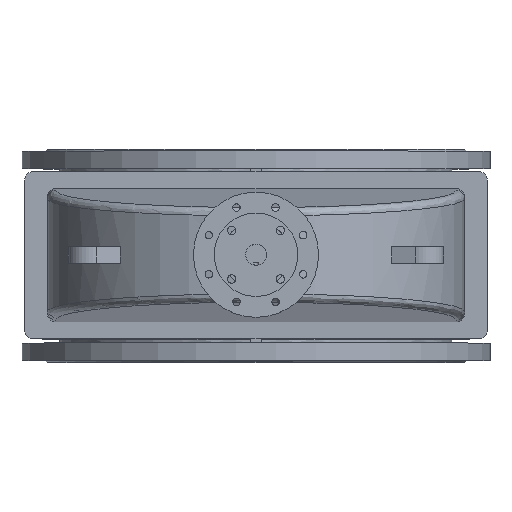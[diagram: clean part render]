
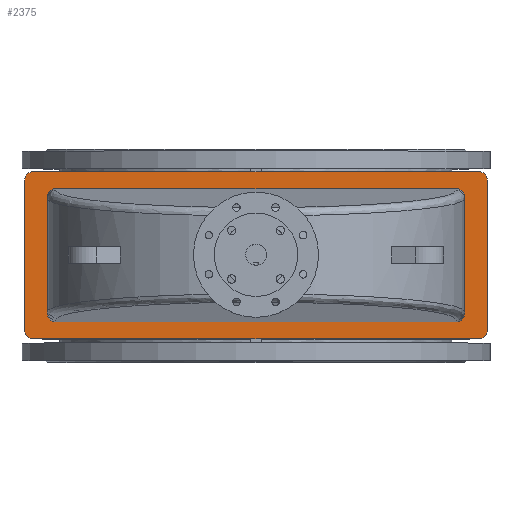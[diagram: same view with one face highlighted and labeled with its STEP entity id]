
A CAD part, top view. The second image highlights one B-rep face of the part: STEP entity #2375.
In plain terms, the highlighted planar face has unit normal (0, 0, 1).
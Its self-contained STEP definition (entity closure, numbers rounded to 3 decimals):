
#2375=ADVANCED_FACE('',(#7449,#7451),#7453,.T.);
#7449=FACE_BOUND('',#7450,.T.);
#7450=EDGE_LOOP('',(#9729,#9730,#9731,#9732,#9733,#9734,#9735,#9736));
#7451=FACE_BOUND('',#7452,.T.);
#7452=EDGE_LOOP('',(#9737,#9738,#9739,#9740,#9741,#9742,#9743,#9744));
#7453=PLANE('',#7454);
#7454=AXIS2_PLACEMENT_3D('',#7455,#7456,#7457);
#7455=CARTESIAN_POINT('',(0.,0.,1016.));
#7456=DIRECTION('',(0.,-0.,1.));
#7457=DIRECTION('',(0.,1.,0.));
#9729=ORIENTED_EDGE('',*,*,#10529,.F.);
#9730=ORIENTED_EDGE('',*,*,#10542,.T.);
#9731=ORIENTED_EDGE('',*,*,#10541,.F.);
#9732=ORIENTED_EDGE('',*,*,#10539,.T.);
#9733=ORIENTED_EDGE('',*,*,#10537,.F.);
#9734=ORIENTED_EDGE('',*,*,#10535,.T.);
#9735=ORIENTED_EDGE('',*,*,#10533,.F.);
#9736=ORIENTED_EDGE('',*,*,#10530,.T.);
#9737=ORIENTED_EDGE('',*,*,#10543,.F.);
#9738=ORIENTED_EDGE('',*,*,#10544,.F.);
#9739=ORIENTED_EDGE('',*,*,#10545,.F.);
#9740=ORIENTED_EDGE('',*,*,#10546,.F.);
#9741=ORIENTED_EDGE('',*,*,#10547,.F.);
#9742=ORIENTED_EDGE('',*,*,#10548,.F.);
#9743=ORIENTED_EDGE('',*,*,#10549,.F.);
#9744=ORIENTED_EDGE('',*,*,#10550,.F.);
#10529=EDGE_CURVE('',#11647,#11645,#11649,.F.);
#10530=EDGE_CURVE('',#11650,#11645,#11651,.T.);
#10533=EDGE_CURVE('',#11650,#11653,#11655,.F.);
#10535=EDGE_CURVE('',#11656,#11653,#11658,.T.);
#10537=EDGE_CURVE('',#11656,#11659,#11661,.F.);
#10539=EDGE_CURVE('',#11662,#11659,#11664,.T.);
#10541=EDGE_CURVE('',#11662,#11665,#11667,.F.);
#10542=EDGE_CURVE('',#11647,#11665,#11668,.T.);
#10543=EDGE_CURVE('',#11669,#11670,#11671,.F.);
#10544=EDGE_CURVE('',#11672,#11669,#11673,.T.);
#10545=EDGE_CURVE('',#11674,#11672,#11675,.T.);
#10546=EDGE_CURVE('',#11676,#11674,#11677,.T.);
#10547=EDGE_CURVE('',#11678,#11676,#11679,.F.);
#10548=EDGE_CURVE('',#11680,#11678,#11681,.T.);
#10549=EDGE_CURVE('',#11682,#11680,#11683,.T.);
#10550=EDGE_CURVE('',#11670,#11682,#11684,.T.);
#11645=VERTEX_POINT('',#14980);
#11647=VERTEX_POINT('',#14984);
#11649=CIRCLE('',#14988,20.);
#11650=VERTEX_POINT('',#14992);
#11651=LINE('',#14993,#14994);
#11653=VERTEX_POINT('',#14999);
#11655=CIRCLE('',#15003,20.);
#11656=VERTEX_POINT('',#15007);
#11658=LINE('',#15011,#15012);
#11659=VERTEX_POINT('',#15014);
#11661=CIRCLE('',#15018,20.);
#11662=VERTEX_POINT('',#15022);
#11664=LINE('',#15026,#15027);
#11665=VERTEX_POINT('',#15029);
#11667=CIRCLE('',#15033,20.);
#11668=LINE('',#15037,#15038);
#11669=VERTEX_POINT('',#15040);
#11670=VERTEX_POINT('',#15041);
#11671=(BOUNDED_CURVE()B_SPLINE_CURVE(3,
(#15042,#15043,#15044,#15045),
.UNSPECIFIED.,.F.,.F.)B_SPLINE_CURVE_WITH_KNOTS((4,4),
(0.,1.),
.UNSPECIFIED.)CURVE()GEOMETRIC_REPRESENTATION_ITEM()RATIONAL_B_SPLINE_CURVE((1.,
0.805,0.805,1.))REPRESENTATION_ITEM(''));
#11672=VERTEX_POINT('',#15046);
#11673=LINE('',#15047,#15048);
#11674=VERTEX_POINT('',#15050);
#11675=(BOUNDED_CURVE()B_SPLINE_CURVE(3,
(#15051,#15052,#15053,#15054),
.UNSPECIFIED.,.F.,.F.)B_SPLINE_CURVE_WITH_KNOTS((4,4),
(0.,1.),
.UNSPECIFIED.)CURVE()GEOMETRIC_REPRESENTATION_ITEM()RATIONAL_B_SPLINE_CURVE((1.,
0.805,0.805,1.))REPRESENTATION_ITEM(''));
#11676=VERTEX_POINT('',#15055);
#11677=LINE('',#15056,#15057);
#11678=VERTEX_POINT('',#15059);
#11679=(BOUNDED_CURVE()B_SPLINE_CURVE(3,
(#15060,#15061,#15062,#15063),
.UNSPECIFIED.,.F.,.F.)B_SPLINE_CURVE_WITH_KNOTS((4,4),
(0.,1.),
.UNSPECIFIED.)CURVE()GEOMETRIC_REPRESENTATION_ITEM()RATIONAL_B_SPLINE_CURVE((1.,
0.805,0.805,1.))REPRESENTATION_ITEM(''));
#11680=VERTEX_POINT('',#15064);
#11681=LINE('',#15065,#15066);
#11682=VERTEX_POINT('',#15068);
#11683=(BOUNDED_CURVE()B_SPLINE_CURVE(3,
(#15069,#15070,#15071,#15072),
.UNSPECIFIED.,.F.,.F.)B_SPLINE_CURVE_WITH_KNOTS((4,4),
(0.,1.),
.UNSPECIFIED.)CURVE()GEOMETRIC_REPRESENTATION_ITEM()RATIONAL_B_SPLINE_CURVE((1.,
0.805,0.805,1.))REPRESENTATION_ITEM(''));
#11684=LINE('',#15073,#15074);
#14980=CARTESIAN_POINT('',(-555.,-180.,1016.));
#14984=CARTESIAN_POINT('',(-535.,-200.,1016.));
#14988=AXIS2_PLACEMENT_3D('',#14989,#14990,#14991);
#14989=CARTESIAN_POINT('',(-535.,-180.,1016.));
#14990=DIRECTION('',(0.,-0.,1.));
#14991=DIRECTION('',(-1.,0.,0.));
#14992=CARTESIAN_POINT('',(-555.,180.,1016.));
#14993=CARTESIAN_POINT('',(-555.,180.,1016.));
#14994=VECTOR('',#14995,1.);
#14995=DIRECTION('',(0.,-1.,0.));
#14999=CARTESIAN_POINT('',(-535.,200.,1016.));
#15003=AXIS2_PLACEMENT_3D('',#15004,#15005,#15006);
#15004=CARTESIAN_POINT('',(-535.,180.,1016.));
#15005=DIRECTION('',(0.,-0.,1.));
#15006=DIRECTION('',(0.,1.,0.));
#15007=CARTESIAN_POINT('',(535.,200.,1016.));
#15011=CARTESIAN_POINT('',(535.,200.,1016.));
#15012=VECTOR('',#15013,1.);
#15013=DIRECTION('',(-1.,0.,0.));
#15014=CARTESIAN_POINT('',(555.,180.,1016.));
#15018=AXIS2_PLACEMENT_3D('',#15019,#15020,#15021);
#15019=CARTESIAN_POINT('',(535.,180.,1016.));
#15020=DIRECTION('',(0.,-0.,1.));
#15021=DIRECTION('',(1.,0.,0.));
#15022=CARTESIAN_POINT('',(555.,-180.,1016.));
#15026=CARTESIAN_POINT('',(555.,-180.,1016.));
#15027=VECTOR('',#15028,1.);
#15028=DIRECTION('',(0.,1.,0.));
#15029=CARTESIAN_POINT('',(535.,-200.,1016.));
#15033=AXIS2_PLACEMENT_3D('',#15034,#15035,#15036);
#15034=CARTESIAN_POINT('',(535.,-180.,1016.));
#15035=DIRECTION('',(0.,-0.,1.));
#15036=DIRECTION('',(0.,-1.,0.));
#15037=CARTESIAN_POINT('',(-535.,-200.,1016.));
#15038=VECTOR('',#15039,1.);
#15039=DIRECTION('',(1.,0.,0.));
#15040=CARTESIAN_POINT('',(480.,-160.,1016.));
#15041=CARTESIAN_POINT('',(500.,-139.924,1016.));
#15042=CARTESIAN_POINT('',(500.,-139.924,1016.));
#15043=CARTESIAN_POINT('',(500.,-151.684,1016.));
#15044=CARTESIAN_POINT('',(491.716,-160.,1016.));
#15045=CARTESIAN_POINT('',(480.,-160.,1016.));
#15046=CARTESIAN_POINT('',(-480.,-160.,1016.));
#15047=CARTESIAN_POINT('',(-480.,-160.,1016.));
#15048=VECTOR('',#15049,1.);
#15049=DIRECTION('',(1.,0.,0.));
#15050=CARTESIAN_POINT('',(-500.,-139.924,1016.));
#15051=CARTESIAN_POINT('',(-500.,-139.924,1016.));
#15052=CARTESIAN_POINT('',(-500.,-151.684,1016.));
#15053=CARTESIAN_POINT('',(-491.716,-160.,1016.));
#15054=CARTESIAN_POINT('',(-480.,-160.,1016.));
#15055=CARTESIAN_POINT('',(-500.,139.924,1016.));
#15056=CARTESIAN_POINT('',(-500.,139.924,1016.));
#15057=VECTOR('',#15058,1.);
#15058=DIRECTION('',(0.,-1.,0.));
#15059=CARTESIAN_POINT('',(-480.,160.,1016.));
#15060=CARTESIAN_POINT('',(-500.,139.924,1016.));
#15061=CARTESIAN_POINT('',(-500.,151.684,1016.));
#15062=CARTESIAN_POINT('',(-491.716,160.,1016.));
#15063=CARTESIAN_POINT('',(-480.,160.,1016.));
#15064=CARTESIAN_POINT('',(480.,160.,1016.));
#15065=CARTESIAN_POINT('',(480.,160.,1016.));
#15066=VECTOR('',#15067,1.);
#15067=DIRECTION('',(-1.,0.,0.));
#15068=CARTESIAN_POINT('',(500.,139.924,1016.));
#15069=CARTESIAN_POINT('',(500.,139.924,1016.));
#15070=CARTESIAN_POINT('',(500.,151.684,1016.));
#15071=CARTESIAN_POINT('',(491.716,160.,1016.));
#15072=CARTESIAN_POINT('',(480.,160.,1016.));
#15073=CARTESIAN_POINT('',(500.,-139.924,1016.));
#15074=VECTOR('',#15075,1.);
#15075=DIRECTION('',(0.,1.,0.));
